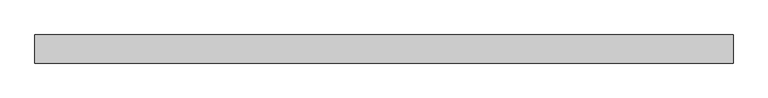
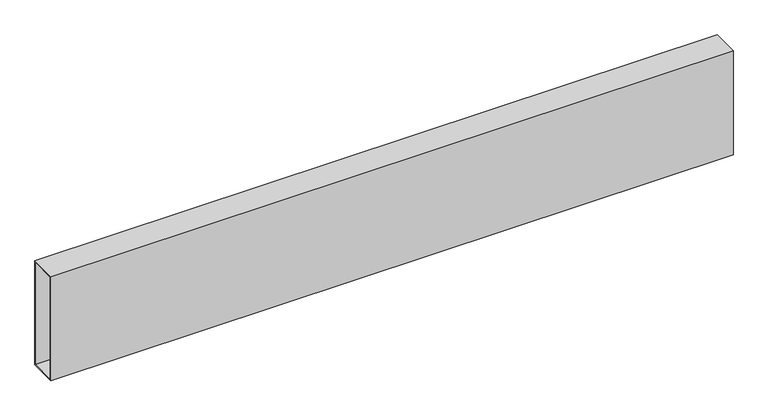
"""IFC4 building model written with IfcOpenShell, lengths in millimetres: proxy geometry, Семейство21 : Семейство21."""

from ifc_helpers import new_model, si_unit, frame, origin, place, context, project, spatial, polyline, outline, extrude, source, transform, mapped, element, save


def generic_models_6bd67163(model_context):
    return source(origin(), model_context, "Body", "SweptSolid", [
        extrude(outline(polyline([(250.0, 1000.0), (250.0, -1000.0), (-250.0, -1000.0), (-250.0, 1000.0), (250.0, 1000.0)]), holes=[polyline([(225.0, 975.0), (-225.0, 975.0), (-225.0, -975.0), (225.0, -975.0), (225.0, 975.0)])]), frame((0.0, 0.0, 0.0), z_axis=(1.0, 0.0, 0.0), x_axis=(0.0, 1.0, 0.0)), (0.0, 0.0, 1.0), 12400.0),
    ])


if __name__ == "__main__":
    model = new_model("IFC4")
    model_context = context("Model", 3, world=origin())
    ifc_project = project(units=[si_unit("LENGTHUNIT", "METRE", prefix="MILLI")], contexts=[model_context])
    site = spatial("IfcSite", under=ifc_project)
    building = spatial("IfcBuilding", under=site)
    placement = place(None, origin())
    generic_models_shape = generic_models_6bd67163(model_context)
    element("IfcBuildingElementProxy", 1, Name="Семейство21 : Семейство21", ObjectType="Семейство21 : Семейство21", at=placement, inside=building, context=model_context, shape_type="MappedRepresentation", body=[
        mapped(generic_models_shape, transform((0.0, 0.0, 0.0), x_axis=(1.0, 0.0, 0.0), y_axis=(0.0, 1.0, 0.0), z_axis=(0.0, 0.0, 1.0))),
    ])
    save(model, "model.ifc")
